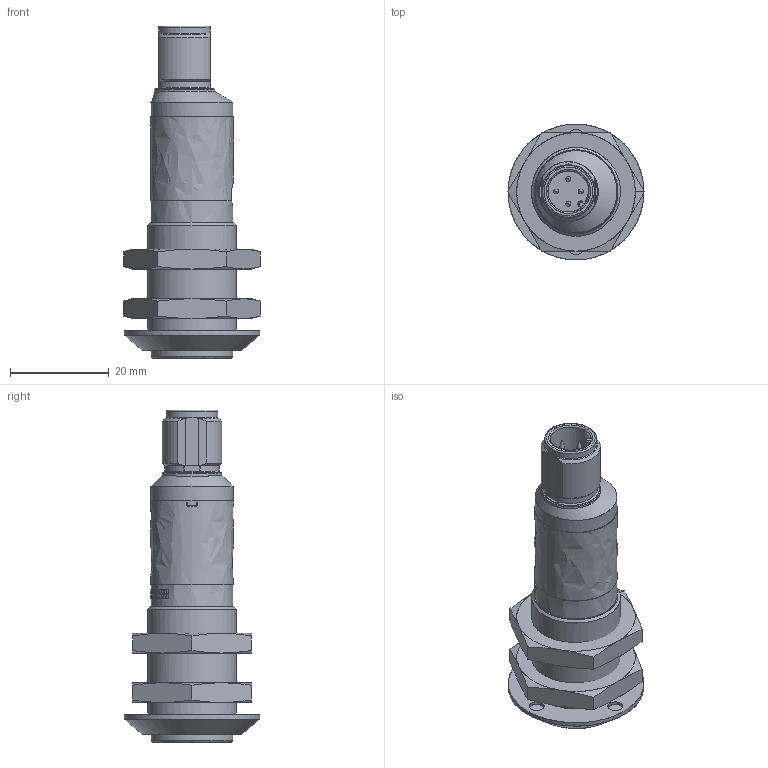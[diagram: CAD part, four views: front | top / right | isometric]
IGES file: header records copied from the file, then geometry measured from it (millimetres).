
Global section: file name: D:\CS\S15\DSD-0515.igs; native system: NX V7.5; preprocessor: SIEMENS PLM Software NX 7.5; date: 20130305.122629; units: millimetre
Bounding box: 27.71 x 27.5 x 67.2 mm (x, y, z)
Surface area: 36020.7 mm2 (no closed solid volume)
Topology: 0 solids, 0 shells, 1048 faces, 10642 edges, 10559 vertices
Faces by surface type: bspline 1048
